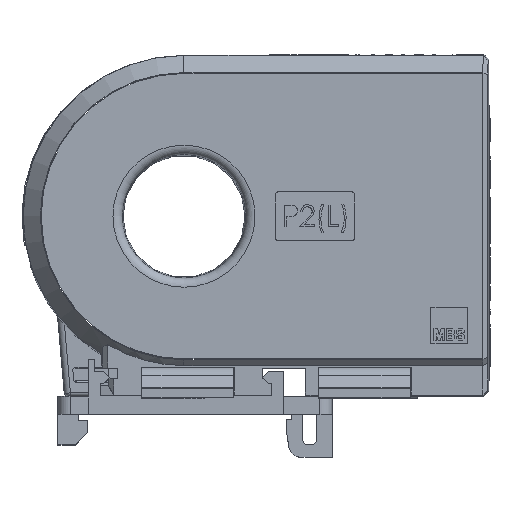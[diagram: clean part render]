
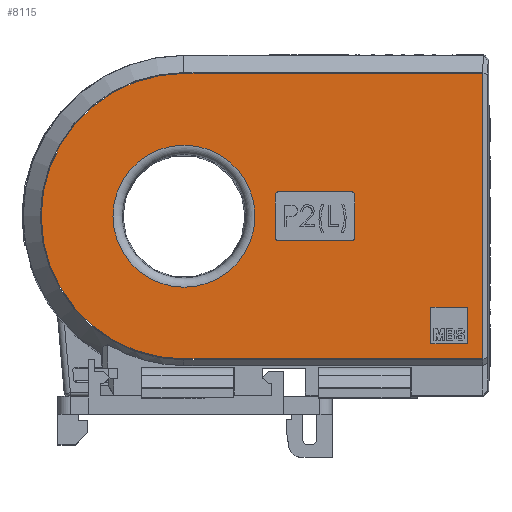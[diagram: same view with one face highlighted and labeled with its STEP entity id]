
A CAD part, top view. The second image highlights one B-rep face of the part: STEP entity #8115.
In plain terms, the highlighted planar face has unit normal (0, 0, 1).
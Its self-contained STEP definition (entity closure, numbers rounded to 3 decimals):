
#277=FACE_BOUND('',#927,.T.);
#278=FACE_BOUND('',#928,.T.);
#279=FACE_BOUND('',#929,.T.);
#394=CIRCLE('',#8551,11.649);
#395=CIRCLE('',#8556,23.417);
#396=CIRCLE('',#8557,0.5);
#397=CIRCLE('',#8558,0.5);
#398=CIRCLE('',#8559,0.5);
#399=CIRCLE('',#8560,0.5);
#629=FACE_OUTER_BOUND('',#926,.T.);
#926=EDGE_LOOP('',(#6599,#6600,#6601,#6602));
#927=EDGE_LOOP('',(#6603,#6604,#6605,#6606));
#928=EDGE_LOOP('',(#6607));
#929=EDGE_LOOP('',(#6608,#6609,#6610,#6611,#6612,#6613,#6614,#6615));
#1544=LINE('',#12559,#2579);
#1545=LINE('',#12563,#2580);
#1546=LINE('',#12564,#2581);
#1547=LINE('',#12567,#2582);
#1548=LINE('',#12569,#2583);
#1549=LINE('',#12571,#2584);
#1550=LINE('',#12572,#2585);
#1551=LINE('',#12577,#2586);
#1552=LINE('',#12581,#2587);
#1553=LINE('',#12585,#2588);
#1554=LINE('',#12588,#2589);
#2579=VECTOR('',#9705,49.011);
#2580=VECTOR('',#9708,49.011);
#2581=VECTOR('',#9709,46.834);
#2582=VECTOR('',#9710,6.);
#2583=VECTOR('',#9711,6.);
#2584=VECTOR('',#9712,6.);
#2585=VECTOR('',#9713,6.);
#2586=VECTOR('',#9716,12.);
#2587=VECTOR('',#9719,7.);
#2588=VECTOR('',#9722,12.);
#2589=VECTOR('',#9725,7.);
#3592=VERTEX_POINT('',#12535);
#3601=VERTEX_POINT('',#12557);
#3602=VERTEX_POINT('',#12558);
#3603=VERTEX_POINT('',#12560);
#3604=VERTEX_POINT('',#12562);
#3605=VERTEX_POINT('',#12565);
#3606=VERTEX_POINT('',#12566);
#3607=VERTEX_POINT('',#12568);
#3608=VERTEX_POINT('',#12570);
#3609=VERTEX_POINT('',#12573);
#3610=VERTEX_POINT('',#12574);
#3611=VERTEX_POINT('',#12576);
#3612=VERTEX_POINT('',#12578);
#3613=VERTEX_POINT('',#12580);
#3614=VERTEX_POINT('',#12582);
#3615=VERTEX_POINT('',#12584);
#3616=VERTEX_POINT('',#12586);
#4869=EDGE_CURVE('',#3592,#3592,#394,.T.);
#4879=EDGE_CURVE('',#3601,#3602,#1544,.T.);
#4880=EDGE_CURVE('',#3602,#3603,#395,.T.);
#4881=EDGE_CURVE('',#3603,#3604,#1545,.T.);
#4882=EDGE_CURVE('',#3604,#3601,#1546,.T.);
#4883=EDGE_CURVE('',#3605,#3606,#1547,.T.);
#4884=EDGE_CURVE('',#3607,#3605,#1548,.T.);
#4885=EDGE_CURVE('',#3608,#3607,#1549,.T.);
#4886=EDGE_CURVE('',#3606,#3608,#1550,.T.);
#4887=EDGE_CURVE('',#3609,#3610,#396,.T.);
#4888=EDGE_CURVE('',#3611,#3609,#1551,.T.);
#4889=EDGE_CURVE('',#3612,#3611,#397,.T.);
#4890=EDGE_CURVE('',#3613,#3612,#1552,.T.);
#4891=EDGE_CURVE('',#3614,#3613,#398,.T.);
#4892=EDGE_CURVE('',#3615,#3614,#1553,.T.);
#4893=EDGE_CURVE('',#3616,#3615,#399,.T.);
#4894=EDGE_CURVE('',#3610,#3616,#1554,.T.);
#6599=ORIENTED_EDGE('',*,*,#4879,.T.);
#6600=ORIENTED_EDGE('',*,*,#4880,.T.);
#6601=ORIENTED_EDGE('',*,*,#4881,.T.);
#6602=ORIENTED_EDGE('',*,*,#4882,.T.);
#6603=ORIENTED_EDGE('',*,*,#4883,.F.);
#6604=ORIENTED_EDGE('',*,*,#4884,.F.);
#6605=ORIENTED_EDGE('',*,*,#4885,.F.);
#6606=ORIENTED_EDGE('',*,*,#4886,.F.);
#6607=ORIENTED_EDGE('',*,*,#4869,.T.);
#6608=ORIENTED_EDGE('',*,*,#4887,.F.);
#6609=ORIENTED_EDGE('',*,*,#4888,.F.);
#6610=ORIENTED_EDGE('',*,*,#4889,.F.);
#6611=ORIENTED_EDGE('',*,*,#4890,.F.);
#6612=ORIENTED_EDGE('',*,*,#4891,.F.);
#6613=ORIENTED_EDGE('',*,*,#4892,.F.);
#6614=ORIENTED_EDGE('',*,*,#4893,.F.);
#6615=ORIENTED_EDGE('',*,*,#4894,.F.);
#7863=PLANE('',#8555);
#8115=ADVANCED_FACE('',(#629,#277,#278,#279),#7863,.T.);
#8551=AXIS2_PLACEMENT_3D('',#12536,#9687,#9688);
#8555=AXIS2_PLACEMENT_3D('',#12556,#9703,#9704);
#8556=AXIS2_PLACEMENT_3D('',#12561,#9706,#9707);
#8557=AXIS2_PLACEMENT_3D('',#12575,#9714,#9715);
#8558=AXIS2_PLACEMENT_3D('',#12579,#9717,#9718);
#8559=AXIS2_PLACEMENT_3D('',#12583,#9720,#9721);
#8560=AXIS2_PLACEMENT_3D('',#12587,#9723,#9724);
#9687=DIRECTION('center_axis',(0.,0.,-1.));
#9688=DIRECTION('ref_axis',(1.,0.,0.));
#9703=DIRECTION('center_axis',(0.,0.,1.));
#9704=DIRECTION('ref_axis',(1.,0.,0.));
#9705=DIRECTION('',(-1.,0.,0.));
#9706=DIRECTION('center_axis',(0.,0.,1.));
#9707=DIRECTION('ref_axis',(1.,0.,0.));
#9708=DIRECTION('',(1.,0.,0.));
#9709=DIRECTION('',(0.,1.,0.));
#9710=DIRECTION('',(0.,-1.,0.));
#9711=DIRECTION('',(-1.,0.,0.));
#9712=DIRECTION('',(0.,1.,0.));
#9713=DIRECTION('',(1.,0.,0.));
#9714=DIRECTION('center_axis',(0.,0.,1.));
#9715=DIRECTION('ref_axis',(-1.,0.,0.));
#9716=DIRECTION('',(-1.,0.,0.));
#9717=DIRECTION('center_axis',(0.,0.,1.));
#9718=DIRECTION('ref_axis',(1.,0.,0.));
#9719=DIRECTION('',(0.,1.,0.));
#9720=DIRECTION('center_axis',(0.,0.,1.));
#9721=DIRECTION('ref_axis',(1.,0.,0.));
#9722=DIRECTION('',(1.,0.,0.));
#9723=DIRECTION('center_axis',(0.,0.,1.));
#9724=DIRECTION('ref_axis',(1.,0.,0.));
#9725=DIRECTION('',(0.,-1.,0.));
#12535=CARTESIAN_POINT('',(11.649,0.,15.));
#12536=CARTESIAN_POINT('Origin',(0.,0.,15.));
#12556=CARTESIAN_POINT('Origin',(0.,0.,15.));
#12557=CARTESIAN_POINT('',(49.011,23.417,15.));
#12558=CARTESIAN_POINT('',(0.,23.417,15.));
#12559=CARTESIAN_POINT('',(0.,23.417,15.));
#12560=CARTESIAN_POINT('',(0.,-23.417,15.));
#12561=CARTESIAN_POINT('Origin',(0.,0.,15.));
#12562=CARTESIAN_POINT('',(49.011,-23.417,15.));
#12563=CARTESIAN_POINT('',(0.,-23.417,15.));
#12564=CARTESIAN_POINT('',(49.011,23.5,15.));
#12565=CARTESIAN_POINT('',(40.511,-14.917,15.));
#12566=CARTESIAN_POINT('',(40.511,-20.917,15.));
#12567=CARTESIAN_POINT('',(40.511,-14.917,15.));
#12568=CARTESIAN_POINT('',(46.511,-14.917,15.));
#12569=CARTESIAN_POINT('',(40.511,-14.917,15.));
#12570=CARTESIAN_POINT('',(46.511,-20.917,15.));
#12571=CARTESIAN_POINT('',(46.511,-14.917,15.));
#12572=CARTESIAN_POINT('',(40.511,-20.917,15.));
#12573=CARTESIAN_POINT('',(15.5,4.,15.));
#12574=CARTESIAN_POINT('',(15.,3.5,15.));
#12575=CARTESIAN_POINT('Origin',(15.5,3.5,15.));
#12576=CARTESIAN_POINT('',(27.5,4.,15.));
#12577=CARTESIAN_POINT('',(15.5,4.,15.));
#12578=CARTESIAN_POINT('',(28.,3.5,15.));
#12579=CARTESIAN_POINT('Origin',(27.5,3.5,15.));
#12580=CARTESIAN_POINT('',(28.,-3.5,15.));
#12581=CARTESIAN_POINT('',(28.,-3.5,15.));
#12582=CARTESIAN_POINT('',(27.5,-4.,15.));
#12583=CARTESIAN_POINT('Origin',(27.5,-3.5,15.));
#12584=CARTESIAN_POINT('',(15.5,-4.,15.));
#12585=CARTESIAN_POINT('',(15.5,-4.,15.));
#12586=CARTESIAN_POINT('',(15.,-3.5,15.));
#12587=CARTESIAN_POINT('Origin',(15.5,-3.5,15.));
#12588=CARTESIAN_POINT('',(15.,-3.5,15.));
